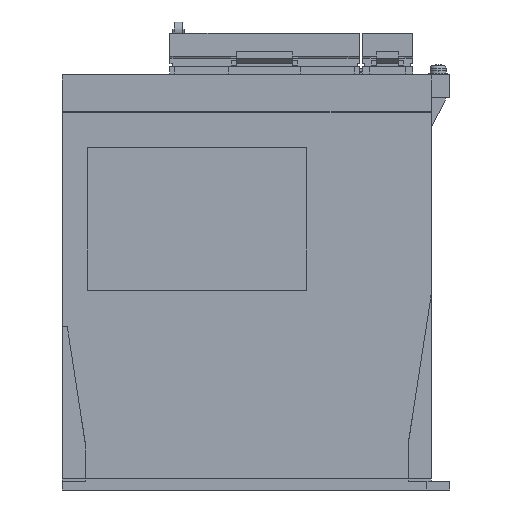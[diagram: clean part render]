
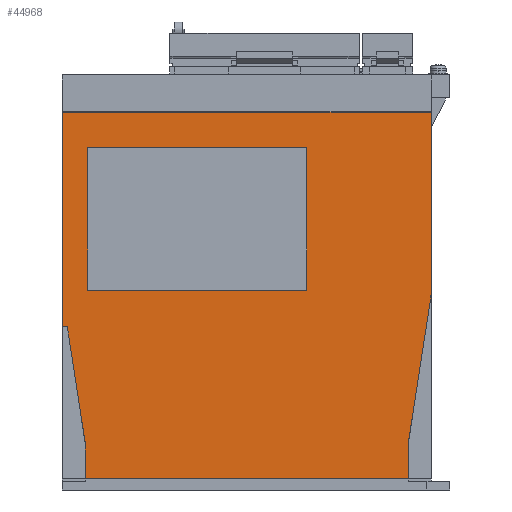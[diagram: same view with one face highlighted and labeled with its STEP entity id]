
A CAD part, left-side view. The second image highlights one B-rep face of the part: STEP entity #44968.
In plain terms, the highlighted planar face has unit normal (-1, 0, 0).
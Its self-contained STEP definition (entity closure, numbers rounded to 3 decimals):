
#524=DIRECTION('',(0.,0.,1.));
#525=VECTOR('',#524,78.9);
#526=CARTESIAN_POINT('',(0.,0.,85.));
#527=LINE('',#526,#525);
#12920=DIRECTION('',(0.,1.,0.));
#12921=VECTOR('',#12920,140.);
#12922=CARTESIAN_POINT('',(0.,10.,4.9));
#12923=LINE('',#12922,#12921);
#12924=DIRECTION('',(0.,0.152,0.988));
#12925=VECTOR('',#12924,51.296);
#12926=CARTESIAN_POINT('',(0.,150.,20.));
#12927=LINE('',#12926,#12925);
#12928=DIRECTION('',(0.,1.,0.));
#12929=VECTOR('',#12928,2.2);
#12930=CARTESIAN_POINT('',(0.,157.8,70.7));
#12931=LINE('',#12930,#12929);
#12932=DIRECTION('',(0.,-1.,0.));
#12933=VECTOR('',#12932,160.);
#12934=CARTESIAN_POINT('',(0.,160.,163.9));
#12935=LINE('',#12934,#12933);
#12936=DIRECTION('',(0.,0.152,-0.988));
#12937=VECTOR('',#12936,65.765);
#12938=CARTESIAN_POINT('',(0.,0.,85.));
#12939=LINE('',#12938,#12937);
#12940=DIRECTION('',(0.,0.,-1.));
#12941=VECTOR('',#12940,15.1);
#12942=CARTESIAN_POINT('',(0.,10.,20.));
#12943=LINE('',#12942,#12941);
#12944=DIRECTION('',(0.,-1.,0.));
#12945=VECTOR('',#12944,95.);
#12946=CARTESIAN_POINT('',(0.,149.,86.6));
#12947=LINE('',#12946,#12945);
#12960=DIRECTION('',(0.,0.,-1.));
#12961=VECTOR('',#12960,15.1);
#12962=CARTESIAN_POINT('',(0.,150.,20.));
#12963=LINE('',#12962,#12961);
#12980=DIRECTION('',(0.,0.,-1.));
#12981=VECTOR('',#12980,93.2);
#12982=CARTESIAN_POINT('',(0.,160.,163.9));
#12983=LINE('',#12982,#12981);
#13348=DIRECTION('',(0.,0.,1.));
#13349=VECTOR('',#13348,62.);
#13350=CARTESIAN_POINT('',(0.,149.,86.6));
#13351=LINE('',#13350,#13349);
#13356=DIRECTION('',(0.,-1.,0.));
#13357=VECTOR('',#13356,95.);
#13358=CARTESIAN_POINT('',(0.,149.,148.6));
#13359=LINE('',#13358,#13357);
#13364=DIRECTION('',(0.,0.,-1.));
#13365=VECTOR('',#13364,62.);
#13366=CARTESIAN_POINT('',(0.,54.,148.6));
#13367=LINE('',#13366,#13365);
#14312=CARTESIAN_POINT('',(0.,0.,85.));
#14313=VERTEX_POINT('',#14312);
#14314=CARTESIAN_POINT('',(0.,0.,163.9));
#14315=VERTEX_POINT('',#14314);
#14378=CARTESIAN_POINT('',(0.,150.,4.9));
#14379=VERTEX_POINT('',#14378);
#14380=CARTESIAN_POINT('',(0.,10.,4.9));
#14381=VERTEX_POINT('',#14380);
#14428=CARTESIAN_POINT('',(0.,160.,163.9));
#14429=VERTEX_POINT('',#14428);
#18306=CARTESIAN_POINT('',(0.,150.,20.));
#18307=VERTEX_POINT('',#18306);
#18308=CARTESIAN_POINT('',(0.,157.8,70.7));
#18309=VERTEX_POINT('',#18308);
#18310=CARTESIAN_POINT('',(0.,160.,70.7));
#18311=VERTEX_POINT('',#18310);
#18312=CARTESIAN_POINT('',(0.,10.,20.));
#18313=VERTEX_POINT('',#18312);
#18314=CARTESIAN_POINT('',(0.,149.,86.6));
#18315=CARTESIAN_POINT('',(0.,54.,86.6));
#18316=VERTEX_POINT('',#18314);
#18317=VERTEX_POINT('',#18315);
#18318=CARTESIAN_POINT('',(0.,54.,148.6));
#18319=VERTEX_POINT('',#18318);
#18320=CARTESIAN_POINT('',(0.,149.,148.6));
#18321=VERTEX_POINT('',#18320);
#44936=CARTESIAN_POINT('',(0.,160.,0.));
#44937=DIRECTION('',(-1.,0.,0.));
#44938=DIRECTION('',(0.,-1.,0.));
#44939=AXIS2_PLACEMENT_3D('',#44936,#44937,#44938);
#44940=PLANE('',#44939);
#44941=ORIENTED_EDGE('',*,*,#19317,.T.);
#44943=ORIENTED_EDGE('',*,*,#44942,.F.);
#44945=ORIENTED_EDGE('',*,*,#44944,.T.);
#44947=ORIENTED_EDGE('',*,*,#44946,.T.);
#44949=ORIENTED_EDGE('',*,*,#44948,.F.);
#44950=ORIENTED_EDGE('',*,*,#19455,.T.);
#44951=ORIENTED_EDGE('',*,*,#19231,.F.);
#44953=ORIENTED_EDGE('',*,*,#44952,.T.);
#44955=ORIENTED_EDGE('',*,*,#44954,.T.);
#44956=EDGE_LOOP('',(#44941,#44943,#44945,#44947,#44949,#44950,#44951,#44953,
#44955));
#44957=FACE_OUTER_BOUND('',#44956,.F.);
#44959=ORIENTED_EDGE('',*,*,#44958,.T.);
#44961=ORIENTED_EDGE('',*,*,#44960,.F.);
#44963=ORIENTED_EDGE('',*,*,#44962,.F.);
#44965=ORIENTED_EDGE('',*,*,#44964,.F.);
#44966=EDGE_LOOP('',(#44959,#44961,#44963,#44965));
#44967=FACE_BOUND('',#44966,.F.);
#19231=EDGE_CURVE('',#14313,#14315,#527,.T.);
#19317=EDGE_CURVE('',#14381,#14379,#12923,.T.);
#19455=EDGE_CURVE('',#14429,#14315,#12935,.T.);
#44942=EDGE_CURVE('',#18307,#14379,#12963,.T.);
#44944=EDGE_CURVE('',#18307,#18309,#12927,.T.);
#44946=EDGE_CURVE('',#18309,#18311,#12931,.T.);
#44948=EDGE_CURVE('',#14429,#18311,#12983,.T.);
#44952=EDGE_CURVE('',#14313,#18313,#12939,.T.);
#44954=EDGE_CURVE('',#18313,#14381,#12943,.T.);
#44958=EDGE_CURVE('',#18316,#18317,#12947,.T.);
#44960=EDGE_CURVE('',#18319,#18317,#13367,.T.);
#44962=EDGE_CURVE('',#18321,#18319,#13359,.T.);
#44964=EDGE_CURVE('',#18316,#18321,#13351,.T.);
#44968=ADVANCED_FACE('',(#44957,#44967),#44940,.T.);
